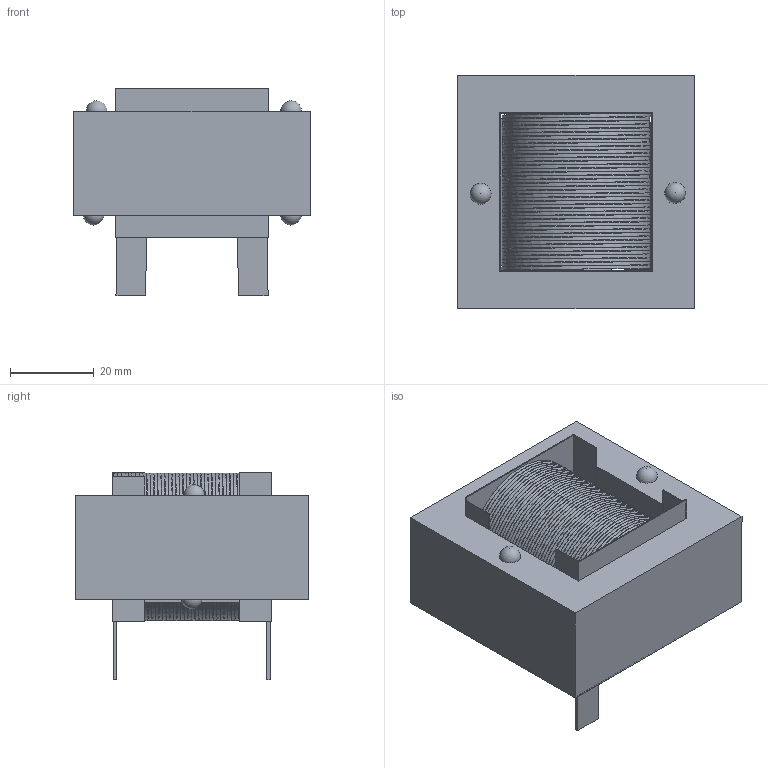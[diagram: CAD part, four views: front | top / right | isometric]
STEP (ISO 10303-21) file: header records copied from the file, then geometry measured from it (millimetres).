
FILE_DESCRIPTION (( 'STEP AP214' ), '1' );
FILE_NAME ('ES55246-341M-27AH.STEP', '2018-10-19T16:39:13', ( '' ), ( '' ), 'SwSTEP 2.0', 'SolidWorks 2017', '' );
FILE_SCHEMA (( 'AUTOMOTIVE_DESIGN' ));
Length unit declared in the file: inch
Products named in the file (1): ES55246-341M-27AH
Bounding box: 56.26 x 55.62 x 49.47 mm (x, y, z)
Volume: 74783.7 mm3; surface area: 78738.4 mm2
Topology: 1 solids, 1 shells, 94 faces, 268 edges, 169 vertices
Faces by surface type: plane 67, cylinder 19, bspline 4, sphere 4
Entity records: 12407 total; most frequent: CARTESIAN_POINT 8806, ORIENTED_EDGE 520, DIRECTION 440, EDGE_CURVE 260, VECTOR 166, LINE 166, VERTEX_POINT 165, AXIS2_PLACEMENT_3D 137
